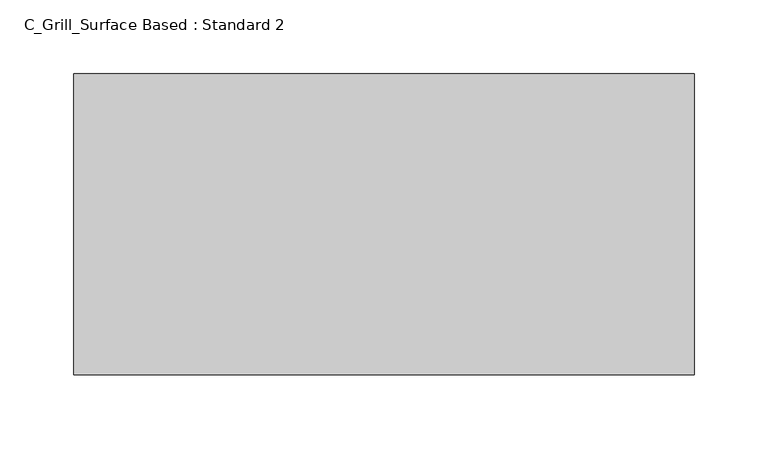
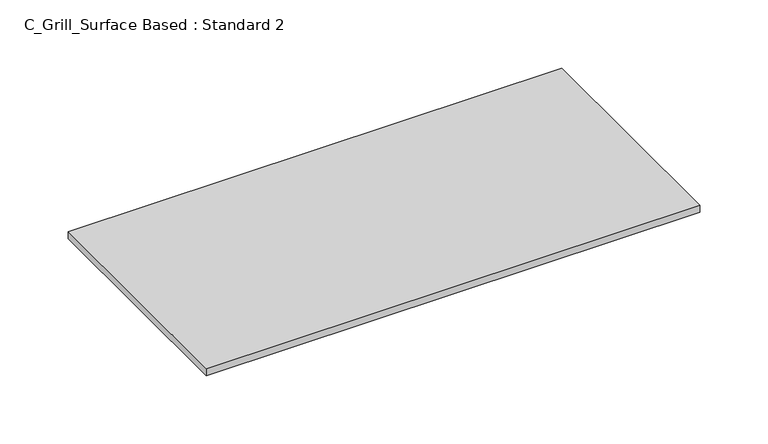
"""IFC4 building model written with IfcOpenShell, lengths in millimetres: air terminal geometry, C_Grill_Surface Based : Standard 2."""

from ifc_helpers import new_model, si_unit, origin, origin_with_axes, place, context, project, spatial, polyline, outline, extrude, source, transform, mapped, element, save


def c_grill_surface_based_standard_2_950f701c(model_context):
    return source(origin(), model_context, "Body", "SweptSolid", [
        extrude(outline(polyline([(209.55, 101.6), (209.55, -101.6), (-209.55, -101.6), (-209.55, 101.6), (209.55, 101.6)])), origin_with_axes(), (0.0, 0.0, 1.0), 6.35),
    ])


if __name__ == "__main__":
    model = new_model("IFC4")
    model_context = context("Model", 3, world=origin())
    ifc_project = project(units=[si_unit("LENGTHUNIT", "METRE", prefix="MILLI")], contexts=[model_context])
    site = spatial("IfcSite", under=ifc_project)
    building = spatial("IfcBuilding", under=site)
    placement = place(None, origin())
    c_grill_surface_based_standard_2_shape = c_grill_surface_based_standard_2_950f701c(model_context)
    element("IfcAirTerminal", 1, ObjectType="C_Grill_Surface Based : Standard 2", at=placement, inside=building, context=model_context, shape_type="MappedRepresentation", body=[
        mapped(c_grill_surface_based_standard_2_shape, transform((0.0, 0.0, 0.0), x_axis=(1.0, 0.0, 0.0), y_axis=(0.0, 1.0, 0.0), z_axis=(0.0, 0.0, 1.0))),
    ])
    save(model, "model.ifc")
